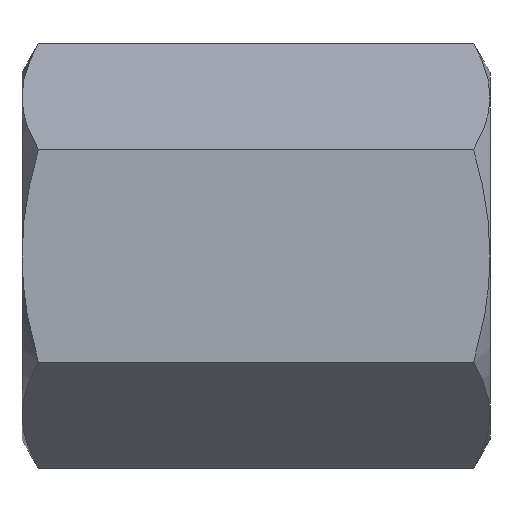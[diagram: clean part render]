
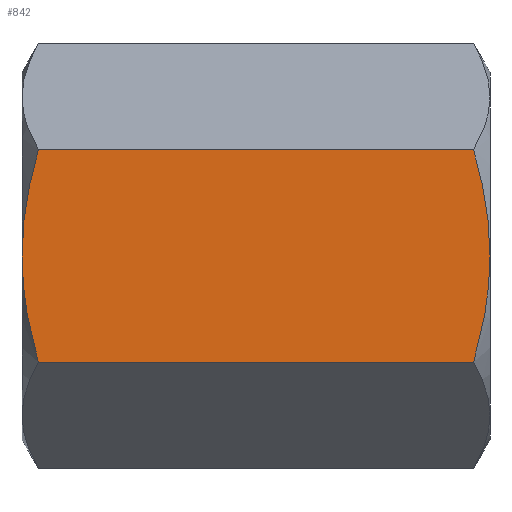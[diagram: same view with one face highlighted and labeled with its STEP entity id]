
A CAD part, left-side view. The second image highlights one B-rep face of the part: STEP entity #842.
In plain terms, the highlighted planar face has unit normal (-1, 0, 0).
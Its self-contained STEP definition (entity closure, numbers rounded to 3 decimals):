
#5 = CARTESIAN_POINT ( 'NONE',  ( -11., -13.167, -5.834 ) ) ;
#13 = CARTESIAN_POINT ( 'NONE',  ( -11., 13.304, -5.31 ) ) ;
#17 = CARTESIAN_POINT ( 'NONE',  ( -11., 13.819, 2.694 ) ) ;
#50 = VECTOR ( 'NONE', #786, 1000. ) ;
#54 = PLANE ( 'NONE',  #304 ) ;
#70 = CARTESIAN_POINT ( 'NONE',  ( -11., -13.977, 1.08 ) ) ;
#103 = ORIENTED_EDGE ( 'NONE', *, *, #859, .T. ) ;
#137 = B_SPLINE_CURVE_WITH_KNOTS ( 'NONE', 3,
 ( #276, #5, #1095, #994, #881, #752, #639, #508 ),
 .UNSPECIFIED., .F., .F.,
 ( 4, 2, 2, 4 ),
 ( 0.012, 0.014, 0.015, 0.018 ),
 .UNSPECIFIED. ) ;
#148 = CARTESIAN_POINT ( 'NONE',  ( -11., 13.167, -5.834 ) ) ;
#152 = CARTESIAN_POINT ( 'NONE',  ( -11., 13.886, 2.16 ) ) ;
#160 = ORIENTED_EDGE ( 'NONE', *, *, #681, .F. ) ;
#195 = ORIENTED_EDGE ( 'NONE', *, *, #1109, .F. ) ;
#196 = CARTESIAN_POINT ( 'NONE',  ( -11., 13.018, -6.351 ) ) ;
#217 = CARTESIAN_POINT ( 'NONE',  ( -11., -14., 0.538 ) ) ;
#250 = CARTESIAN_POINT ( 'NONE',  ( -11., -13.018, 6.351 ) ) ;
#276 = CARTESIAN_POINT ( 'NONE',  ( -11., -13.018, -6.351 ) ) ;
#288 = CARTESIAN_POINT ( 'NONE',  ( -11., 13.018, -6.351 ) ) ;
#292 = B_SPLINE_CURVE_WITH_KNOTS ( 'NONE', 3,
 ( #356, #217, #70, #1152, #1056, #947, #825, #698 ),
 .UNSPECIFIED., .F., .F.,
 ( 4, 2, 2, 4 ),
 ( 0.018, 0.02, 0.022, 0.025 ),
 .UNSPECIFIED. ) ;
#293 = CARTESIAN_POINT ( 'NONE',  ( -11., 13.977, 1.08 ) ) ;
#304 = AXIS2_PLACEMENT_3D ( 'NONE', #1142, #1041, #933 ) ;
#356 = CARTESIAN_POINT ( 'NONE',  ( -11., -14., 0. ) ) ;
#384 = VERTEX_POINT ( 'NONE', #706 ) ;
#413 = ORIENTED_EDGE ( 'NONE', *, *, #957, .F. ) ;
#424 = CARTESIAN_POINT ( 'NONE',  ( -11., 14., 0.538 ) ) ;
#425 = VERTEX_POINT ( 'NONE', #196 ) ;
#452 = VERTEX_POINT ( 'NONE', #1035 ) ;
#458 = B_SPLINE_CURVE_WITH_KNOTS ( 'NONE', 3,
 ( #553, #424, #293, #152, #17, #1104, #1003, #897 ),
 .UNSPECIFIED., .F., .F.,
 ( 4, 2, 2, 4 ),
 ( 0.018, 0.02, 0.022, 0.025 ),
 .UNSPECIFIED. ) ;
#508 = CARTESIAN_POINT ( 'NONE',  ( -11., -14., 0. ) ) ;
#552 = DIRECTION ( 'NONE',  ( 0., -1., 0. ) ) ;
#553 = CARTESIAN_POINT ( 'NONE',  ( -11., 14., 0. ) ) ;
#570 = B_SPLINE_CURVE_WITH_KNOTS ( 'NONE', 3,
 ( #288, #148, #13, #1101, #1000, #892, #759, #648 ),
 .UNSPECIFIED., .F., .F.,
 ( 4, 2, 2, 4 ),
 ( 0.012, 0.014, 0.015, 0.018 ),
 .UNSPECIFIED. ) ;
#574 = CARTESIAN_POINT ( 'NONE',  ( -11., 14., 0. ) ) ;
#589 = VERTEX_POINT ( 'NONE', #574 ) ;
#639 = CARTESIAN_POINT ( 'NONE',  ( -11., -14., -1.075 ) ) ;
#648 = CARTESIAN_POINT ( 'NONE',  ( -11., 14., 0. ) ) ;
#672 = CARTESIAN_POINT ( 'NONE',  ( -11., 14., -6.351 ) ) ;
#681 = EDGE_CURVE ( 'NONE', #425, #589, #570, .T. ) ;
#698 = CARTESIAN_POINT ( 'NONE',  ( -11., -13.018, 6.351 ) ) ;
#706 = CARTESIAN_POINT ( 'NONE',  ( -11., -13.018, -6.351 ) ) ;
#752 = CARTESIAN_POINT ( 'NONE',  ( -11., -13.907, -2.142 ) ) ;
#759 = CARTESIAN_POINT ( 'NONE',  ( -11., 14., -1.075 ) ) ;
#772 = FACE_OUTER_BOUND ( 'NONE', #963, .T. ) ;
#786 = DIRECTION ( 'NONE',  ( 0., -1., 0. ) ) ;
#795 = LINE ( 'NONE', #672, #1159 ) ;
#806 = ORIENTED_EDGE ( 'NONE', *, *, #1170, .T. ) ;
#825 = CARTESIAN_POINT ( 'NONE',  ( -11., -13.314, 5.323 ) ) ;
#842 = ADVANCED_FACE ( 'NONE', ( #772 ), #54, .F. ) ;
#859 = EDGE_CURVE ( 'NONE', #384, #452, #137, .T. ) ;
#870 = VERTEX_POINT ( 'NONE', #1174 ) ;
#881 = CARTESIAN_POINT ( 'NONE',  ( -11., -13.651, -3.73 ) ) ;
#892 = CARTESIAN_POINT ( 'NONE',  ( -11., 13.907, -2.142 ) ) ;
#897 = CARTESIAN_POINT ( 'NONE',  ( -11., 13.018, 6.351 ) ) ;
#912 = CARTESIAN_POINT ( 'NONE',  ( -11., 14., 6.351 ) ) ;
#919 = VERTEX_POINT ( 'NONE', #250 ) ;
#931 = EDGE_CURVE ( 'NONE', #452, #919, #292, .T. ) ;
#933 = DIRECTION ( 'NONE',  ( 0., 0., -1. ) ) ;
#947 = CARTESIAN_POINT ( 'NONE',  ( -11., -13.561, 4.283 ) ) ;
#957 = EDGE_CURVE ( 'NONE', #589, #870, #458, .T. ) ;
#963 = EDGE_LOOP ( 'NONE', ( #806, #103, #1187, #195, #413, #160 ) ) ;
#994 = CARTESIAN_POINT ( 'NONE',  ( -11., -13.547, -4.258 ) ) ;
#1000 = CARTESIAN_POINT ( 'NONE',  ( -11., 13.651, -3.73 ) ) ;
#1003 = CARTESIAN_POINT ( 'NONE',  ( -11., 13.314, 5.323 ) ) ;
#1020 = LINE ( 'NONE', #912, #50 ) ;
#1035 = CARTESIAN_POINT ( 'NONE',  ( -11., -14., 0. ) ) ;
#1041 = DIRECTION ( 'NONE',  ( 1., 0., 0. ) ) ;
#1056 = CARTESIAN_POINT ( 'NONE',  ( -11., -13.819, 2.694 ) ) ;
#1095 = CARTESIAN_POINT ( 'NONE',  ( -11., -13.304, -5.31 ) ) ;
#1101 = CARTESIAN_POINT ( 'NONE',  ( -11., 13.547, -4.258 ) ) ;
#1104 = CARTESIAN_POINT ( 'NONE',  ( -11., 13.561, 4.283 ) ) ;
#1109 = EDGE_CURVE ( 'NONE', #870, #919, #1020, .T. ) ;
#1142 = CARTESIAN_POINT ( 'NONE',  ( -11., 14., -6.351 ) ) ;
#1152 = CARTESIAN_POINT ( 'NONE',  ( -11., -13.886, 2.16 ) ) ;
#1159 = VECTOR ( 'NONE', #552, 1000. ) ;
#1170 = EDGE_CURVE ( 'NONE', #425, #384, #795, .T. ) ;
#1174 = CARTESIAN_POINT ( 'NONE',  ( -11., 13.018, 6.351 ) ) ;
#1187 = ORIENTED_EDGE ( 'NONE', *, *, #931, .T. ) ;
